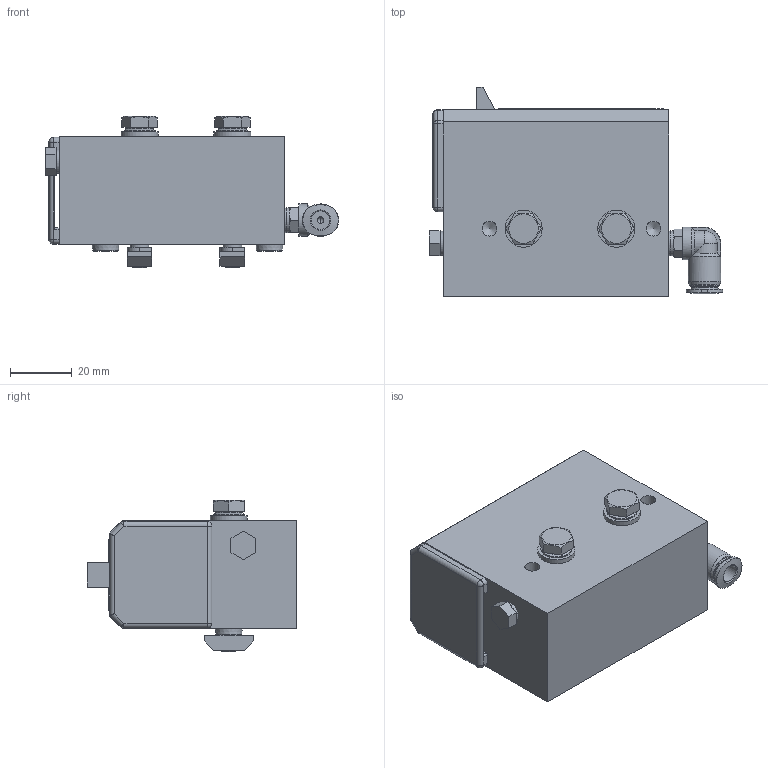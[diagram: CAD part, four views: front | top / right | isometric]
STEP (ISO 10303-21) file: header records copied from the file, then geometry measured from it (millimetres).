
FILE_DESCRIPTION (( 'STEP AP203' ), '1' );
FILE_NAME ('ASUTEC-ASMHS-15-EW-07-100.STEP', '2017-05-11T08:04:02', ( '' ), ( '' ), 'SwSTEP 2.0', 'SolidWorks 2015', '' );
FILE_SCHEMA (( 'CONFIG_CONTROL_DESIGN' ));
Length unit declared in the file: metre
Products named in the file (1): ASUTEC-ASMHS-15-EW-07-100
Bounding box: 94.9 x 67.79 x 49 mm (x, y, z)
Volume: 141132.1 mm3; surface area: 38873.7 mm2
Topology: 5 solids, 7 shells, 696 faces, 1823 edges, 1192 vertices
Faces by surface type: plane 356, cylinder 212, bspline 67, cone 39, sphere 16, torus 6
Full cylindrical faces by diameter (mm): 0.05 x2, 0.1 x2, 2.1 x2, 4.2 x2, 4.8 x4, 5.3 x1, 5.5 x1, 6 x3, 6.1 x2, 6.2 x2, 6.4 x2, 6.6 x2, 7.8 x1, 8 x3, 8.2 x1, 8.4 x1, 8.9 x2, 9.45 x1, 10 x2, 10.5 x2, 12 x2, 15 x1, 22.5 x1
Entity records: 25305 total; most frequent: CARTESIAN_POINT 8824, ORIENTED_EDGE 3426, DIRECTION 3198, EDGE_CURVE 1713, VERTEX_POINT 1161, AXIS2_PLACEMENT_3D 1083, VECTOR 1032, LINE 1032
